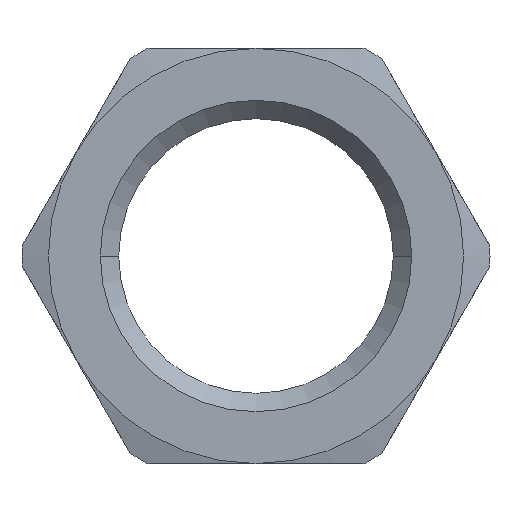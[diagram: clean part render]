
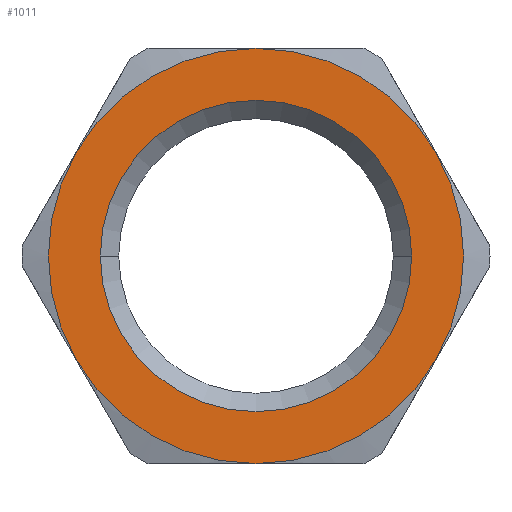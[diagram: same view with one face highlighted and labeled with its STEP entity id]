
A CAD part, left-side view. The second image highlights one B-rep face of the part: STEP entity #1011.
In plain terms, the highlighted planar face has unit normal (-1, 0, 0) as drawn and (0, 0, 1) by its records, which use the part's own axes.
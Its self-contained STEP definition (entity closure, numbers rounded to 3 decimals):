
#299=CARTESIAN_POINT('',(0.,8.25,3.));
#300=VERTEX_POINT('',#299);
#314=CARTESIAN_POINT('',(0.,-8.25,3.0));
#315=VERTEX_POINT('',#314);
#322=CARTESIAN_POINT('',(0.,0.,3.0));
#323=DIRECTION('',(0.0,0.0,-1.0));
#324=DIRECTION('',(0.0,1.0,0.0));
#325=AXIS2_PLACEMENT_3D('',#322,#323,#324);
#326=CIRCLE('',#325,8.25);
#327=EDGE_CURVE('',#300,#315,#326,.T.);
#338=CARTESIAN_POINT('',(0.,0.,3.0));
#339=DIRECTION('',(0.0,0.0,-1.0));
#340=DIRECTION('',(0.0,1.0,0.0));
#341=AXIS2_PLACEMENT_3D('',#338,#339,#340);
#342=CIRCLE('',#341,8.25);
#343=EDGE_CURVE('',#315,#300,#342,.T.);
#626=CARTESIAN_POINT('',(-11.0,0.,3.));
#627=VERTEX_POINT('',#626);
#641=CARTESIAN_POINT('',(-5.5,9.526,3.));
#642=VERTEX_POINT('',#641);
#643=CARTESIAN_POINT('',(0.,0.0,3.0));
#644=DIRECTION('',(0.0,0.0,1.0));
#645=DIRECTION('',(1.0,0.0,0.0));
#646=AXIS2_PLACEMENT_3D('',#643,#644,#645);
#647=CIRCLE('',#646,11.);
#648=EDGE_CURVE('',#642,#627,#647,.T.);
#702=CARTESIAN_POINT('',(-5.5,-9.526,3.));
#703=VERTEX_POINT('',#702);
#717=CARTESIAN_POINT('',(0.,0.0,3.0));
#718=DIRECTION('',(0.0,0.0,1.0));
#719=DIRECTION('',(1.0,0.0,0.0));
#720=AXIS2_PLACEMENT_3D('',#717,#718,#719);
#721=CIRCLE('',#720,11.);
#722=EDGE_CURVE('',#627,#703,#721,.T.);
#764=CARTESIAN_POINT('',(5.5,-9.526,3.));
#765=VERTEX_POINT('',#764);
#779=CARTESIAN_POINT('',(0.,0.0,3.0));
#780=DIRECTION('',(0.0,0.0,1.0));
#781=DIRECTION('',(1.0,0.0,0.0));
#782=AXIS2_PLACEMENT_3D('',#779,#780,#781);
#783=CIRCLE('',#782,11.);
#784=EDGE_CURVE('',#703,#765,#783,.T.);
#827=CARTESIAN_POINT('',(11.,0.0,3.));
#828=VERTEX_POINT('',#827);
#842=CARTESIAN_POINT('',(0.,0.0,3.0));
#843=DIRECTION('',(0.0,0.0,1.0));
#844=DIRECTION('',(1.0,0.0,0.0));
#845=AXIS2_PLACEMENT_3D('',#842,#843,#844);
#846=CIRCLE('',#845,11.);
#847=EDGE_CURVE('',#765,#828,#846,.T.);
#872=CARTESIAN_POINT('',(5.5,9.526,3.));
#873=VERTEX_POINT('',#872);
#874=CARTESIAN_POINT('',(0.,0.0,3.0));
#875=DIRECTION('',(0.0,0.0,1.0));
#876=DIRECTION('',(1.0,0.0,0.0));
#877=AXIS2_PLACEMENT_3D('',#874,#875,#876);
#878=CIRCLE('',#877,11.);
#879=EDGE_CURVE('',#873,#642,#878,.T.);
#917=CARTESIAN_POINT('',(0.,0.0,3.0));
#918=DIRECTION('',(0.0,0.0,1.0));
#919=DIRECTION('',(1.0,0.0,0.0));
#920=AXIS2_PLACEMENT_3D('',#917,#918,#919);
#921=CIRCLE('',#920,11.);
#922=EDGE_CURVE('',#828,#873,#921,.T.);
#994=CARTESIAN_POINT('',(0.,0.,3.0));
#995=DIRECTION('',(0.0,0.0,1.0));
#996=DIRECTION('',(1.0,0.0,0.0));
#997=AXIS2_PLACEMENT_3D('',#994,#995,#996);
#998=PLANE('',#997);
#999=ORIENTED_EDGE('',*,*,#847,.T.);
#1000=ORIENTED_EDGE('',*,*,#922,.T.);
#1001=ORIENTED_EDGE('',*,*,#879,.T.);
#1002=ORIENTED_EDGE('',*,*,#648,.T.);
#1003=ORIENTED_EDGE('',*,*,#722,.T.);
#1004=ORIENTED_EDGE('',*,*,#784,.T.);
#1005=EDGE_LOOP('',(#999,#1000,#1001,#1002,#1003,#1004));
#1006=FACE_OUTER_BOUND('',#1005,.T.);
#1007=ORIENTED_EDGE('',*,*,#327,.T.);
#1008=ORIENTED_EDGE('',*,*,#343,.T.);
#1009=EDGE_LOOP('',(#1007,#1008));
#1010=FACE_BOUND('',#1009,.T.);
#1011=ADVANCED_FACE('',(#1006,#1010),#998,.T.);
